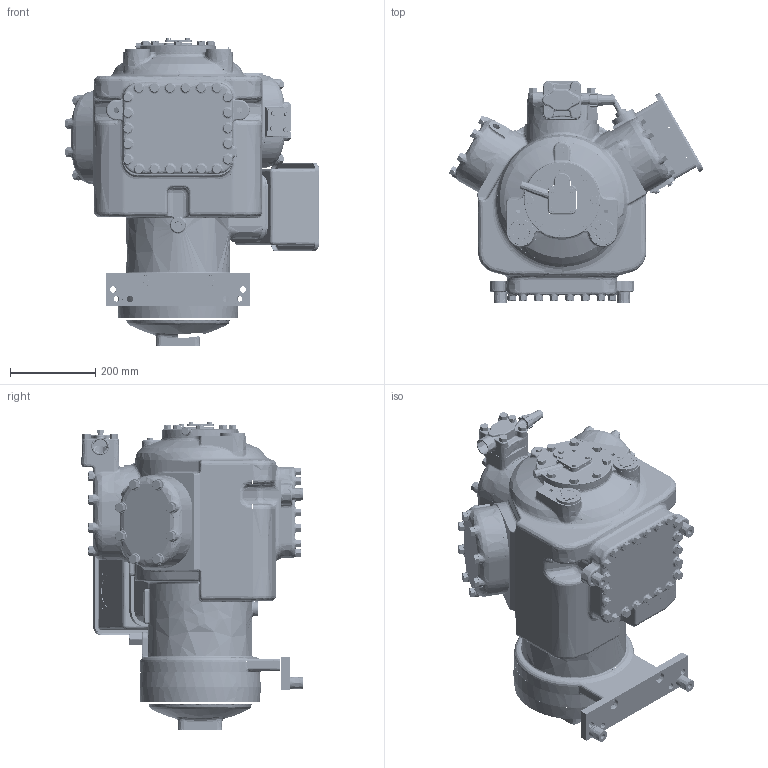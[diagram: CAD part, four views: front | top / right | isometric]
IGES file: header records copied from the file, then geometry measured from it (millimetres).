
Start section:  PTC IGES file: 06E61EHSL_wire.igs
Global section: file name: 06E61EHSL_wire.igs; native system: Pro/ENGINEER by Parametric Technology Corporation; preprocessor: 2003161; author: manikandanm; organization: Unknown; date: 040123.211550; units: inch
Bounding box: 597.44 x 519.34 x 722.91 mm (x, y, z)
Surface area: 2015484.4 mm2 (no closed solid volume)
Topology: 0 solids, 0 shells, 2716 faces, 13332 edges, 13328 vertices
Faces by surface type: bspline 2716
